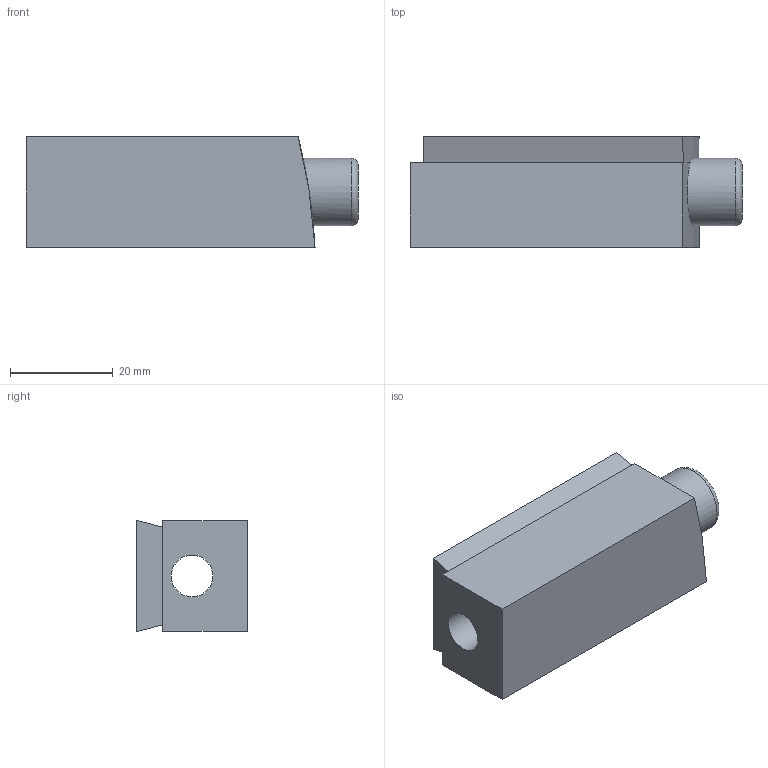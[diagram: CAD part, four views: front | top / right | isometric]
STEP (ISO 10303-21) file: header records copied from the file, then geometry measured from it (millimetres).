
FILE_DESCRIPTION(/* description */ (''),/* implementation_level */ '2;1');
FILE_NAME(/* name */ 'C:\Users\garre\3D Objects\front outside croc axle holder.stp',/* time_stamp */ '2021-09-03T20:53:08-04:00',/* author */ ('garre'),/* organization */ (''),/* preprocessor_version */ 'ST-DEVELOPER v18.1',/* originating_system */ 'Autodesk Inventor 2022',/* authorisation */ '');
FILE_SCHEMA (('AUTOMOTIVE_DESIGN { 1 0 10303 214 3 1 1 }'));
Length unit declared in the file: inch
Products named in the file (1): front outside croc axle holder
Bounding box: 64.77 x 21.59 x 21.77 mm (x, y, z)
Volume: 23019.6 mm3; surface area: 7728 mm2
Topology: 1 solids, 1 shells, 15 faces, 37 edges, 24 vertices
Faces by surface type: plane 10, cylinder 2, bspline 2, torus 1
Full cylindrical faces by diameter (mm): 8.128 x1, 13.208 x1
Entity records: 662 total; most frequent: CARTESIAN_POINT 279, ORIENTED_EDGE 74, DIRECTION 60, EDGE_CURVE 37, VERTEX_POINT 24, LINE 20, VECTOR 20, AXIS2_PLACEMENT_3D 20
